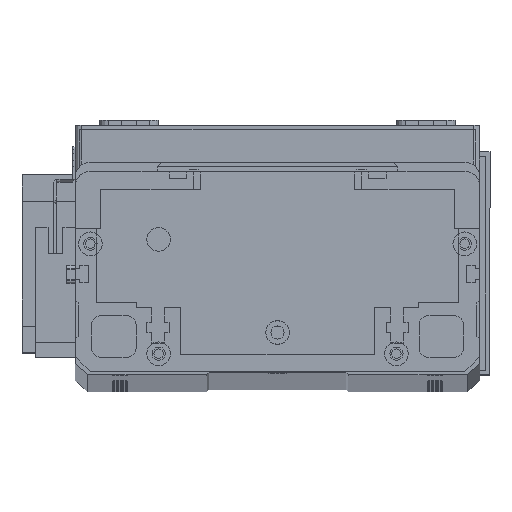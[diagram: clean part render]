
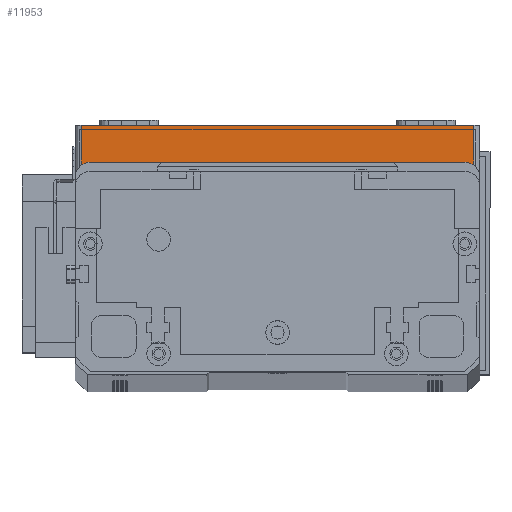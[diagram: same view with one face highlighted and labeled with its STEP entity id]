
A CAD part, top view. The second image highlights one B-rep face of the part: STEP entity #11953.
In plain terms, the highlighted planar face has unit normal (0, 0, 1) as drawn and (0, -1, 0) by its records, which use the part's own axes.
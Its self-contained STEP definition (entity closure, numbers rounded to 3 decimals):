
#144 = DIRECTION ( 'NONE',  ( 0., 0., 1. ) ) ;
#2068 = ORIENTED_EDGE ( 'NONE', *, *, #26075, .T. ) ;
#3194 = ORIENTED_EDGE ( 'NONE', *, *, #24980, .T. ) ;
#3624 = CARTESIAN_POINT ( 'NONE',  ( 2., 0., 19.5 ) ) ;
#5459 = DIRECTION ( 'NONE',  ( 1., 0., 0. ) ) ;
#6261 = CARTESIAN_POINT ( 'NONE',  ( 134., 0., 19.5 ) ) ;
#6955 = LINE ( 'NONE', #3624, #11939 ) ;
#10221 = ORIENTED_EDGE ( 'NONE', *, *, #10389, .T. ) ;
#10389 = EDGE_CURVE ( 'NONE', #17822, #20035, #26273, .T. ) ;
#11057 = FACE_OUTER_BOUND ( 'NONE', #12966, .T. ) ;
#11939 = VECTOR ( 'NONE', #18384, 1000. ) ;
#11953 = ADVANCED_FACE ( 'NONE', ( #11057 ), #24429, .F. ) ;
#12966 = EDGE_LOOP ( 'NONE', ( #20419, #2068, #3194, #10221 ) ) ;
#13740 = LINE ( 'NONE', #29676, #27299 ) ;
#14216 = DIRECTION ( 'NONE',  ( 1., 0., 0. ) ) ;
#14851 = DIRECTION ( 'NONE',  ( 0., 1., 0. ) ) ;
#15406 = AXIS2_PLACEMENT_3D ( 'NONE', #21969, #14851, #144 ) ;
#16347 = VERTEX_POINT ( 'NONE', #25429 ) ;
#17822 = VERTEX_POINT ( 'NONE', #21515 ) ;
#18382 = VECTOR ( 'NONE', #20804, 1000. ) ;
#18384 = DIRECTION ( 'NONE',  ( 0., 0., -1. ) ) ;
#20035 = VERTEX_POINT ( 'NONE', #31205 ) ;
#20419 = ORIENTED_EDGE ( 'NONE', *, *, #29941, .F. ) ;
#20804 = DIRECTION ( 'NONE',  ( 0., 0., 1. ) ) ;
#21515 = CARTESIAN_POINT ( 'NONE',  ( 134., 0., 0. ) ) ;
#21969 = CARTESIAN_POINT ( 'NONE',  ( 0., 0., 19.5 ) ) ;
#24429 = PLANE ( 'NONE',  #15406 ) ;
#24980 = EDGE_CURVE ( 'NONE', #16347, #17822, #28180, .T. ) ;
#25429 = CARTESIAN_POINT ( 'NONE',  ( 2., 0., 0. ) ) ;
#26075 = EDGE_CURVE ( 'NONE', #31133, #16347, #6955, .T. ) ;
#26273 = LINE ( 'NONE', #6261, #18382 ) ;
#26687 = VECTOR ( 'NONE', #14216, 1000. ) ;
#27299 = VECTOR ( 'NONE', #5459, 1000. ) ;
#28180 = LINE ( 'NONE', #30988, #26687 ) ;
#29508 = CARTESIAN_POINT ( 'NONE',  ( 2., 0., 19.5 ) ) ;
#29676 = CARTESIAN_POINT ( 'NONE',  ( 0., 0., 19.5 ) ) ;
#29941 = EDGE_CURVE ( 'NONE', #31133, #20035, #13740, .T. ) ;
#30988 = CARTESIAN_POINT ( 'NONE',  ( 0., 0., 0. ) ) ;
#31133 = VERTEX_POINT ( 'NONE', #29508 ) ;
#31205 = CARTESIAN_POINT ( 'NONE',  ( 134., 0., 19.5 ) ) ;
